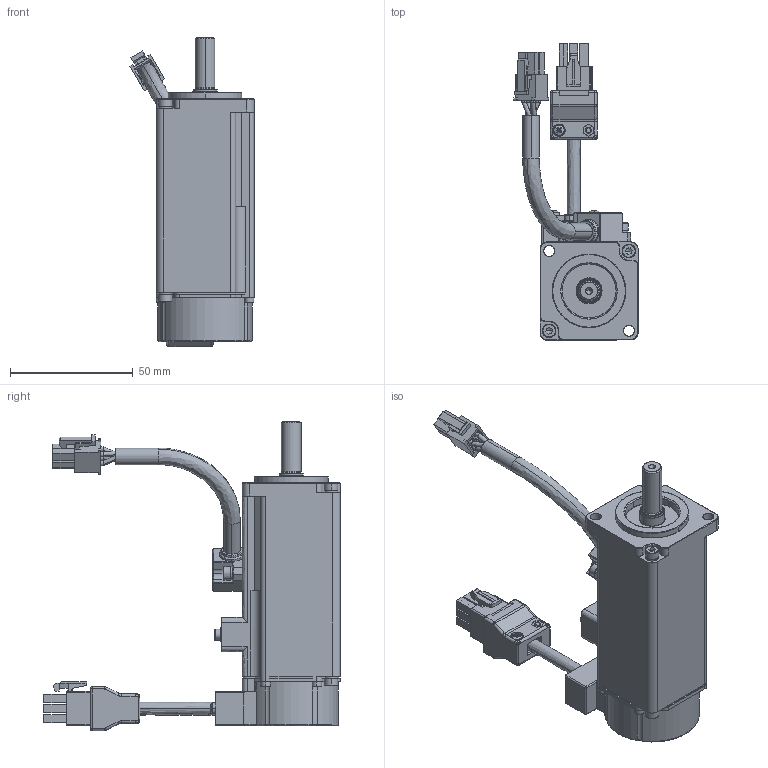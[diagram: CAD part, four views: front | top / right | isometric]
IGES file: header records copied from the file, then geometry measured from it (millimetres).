
Start section: SolidWorks IGES file using analytic representation for surfaces
Global section: file name: C:\景翔\圖面\20200518_SMESMP  馬達尺寸錯誤修正\(NEW)自行修改\3D-IGS\SME-L005B.IGS; native system: SolidWorks 2016; preprocessor: SolidWorks 2016; author: 13521; date: 200518.163124; units: millimetre
Bounding box: 50.65 x 121 x 126.2 mm (x, y, z)
Surface area: 44888.7 mm2 (no closed solid volume)
Topology: 0 solids, 0 shells, 1942 faces, 19938 edges, 19861 vertices
Faces by surface type: bspline 1208, revolution 734
